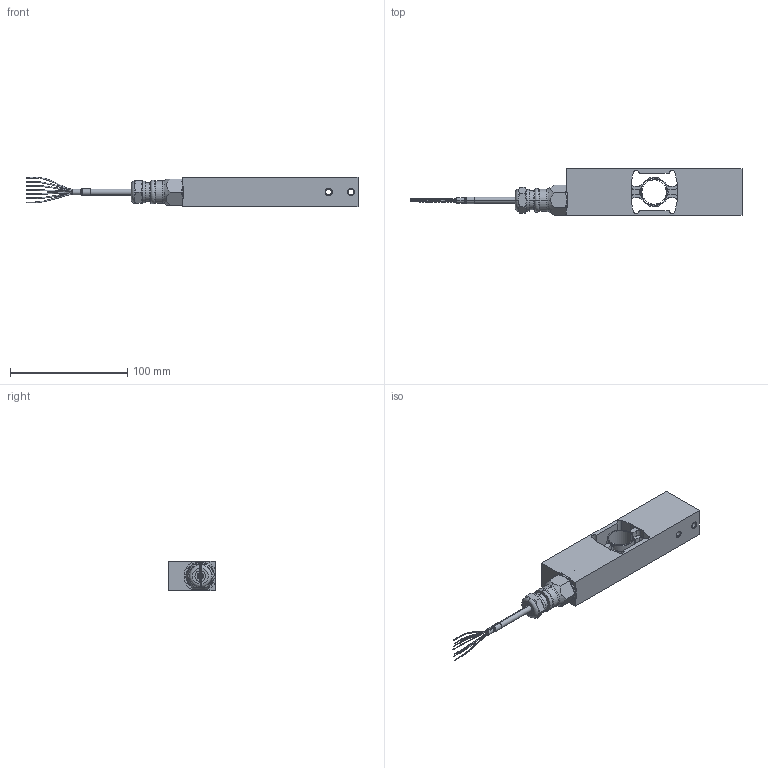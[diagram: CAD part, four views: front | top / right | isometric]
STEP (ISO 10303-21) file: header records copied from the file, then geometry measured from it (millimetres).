
FILE_DESCRIPTION (( 'STEP AP203' ), '1' );
FILE_NAME ('Load_Sensor_HISP4 Series.STEP', '2023-06-20T14:52:43', ( '' ), ( '' ), 'SwSTEP 2.0', 'SolidWorks 2020', '' );
FILE_SCHEMA (( 'CONFIG_CONTROL_DESIGN' ));
Length unit declared in the file: millimetre
Products named in the file (12): 0061435; 0062545; 0042681; 0089823; 0061614; 0082840; 0061456; 0061464_config 1; SP4_CABLE; 0006798; 0008931; Load_Sensor_HISP4 Series
Assembly tree (11 placements, depth 2):
  Load_Sensor_HISP4 Series
    0089823
    0006798
    0042681
    0061435
    0061456
    0061464_config 1
    0008931
    0062545
    0082840
    0061614
    SP4_CABLE
Bounding box: 283.39 x 40 x 25.13 mm (x, y, z)
Volume: 125279.6 mm3; surface area: 48182.5 mm2
Topology: 18 solids, 18 shells, 1050 faces, 3583 edges, 2747 vertices
Faces by surface type: plane 550, cylinder 393, cone 51, torus 34, bspline 22
Entity records: 48148 total; most frequent: CARTESIAN_POINT 15121, ORIENTED_EDGE 7150, DIRECTION 6192, EDGE_CURVE 3575, VERTEX_POINT 2747, AXIS2_PLACEMENT_3D 2326, LINE 1540, VECTOR 1540
